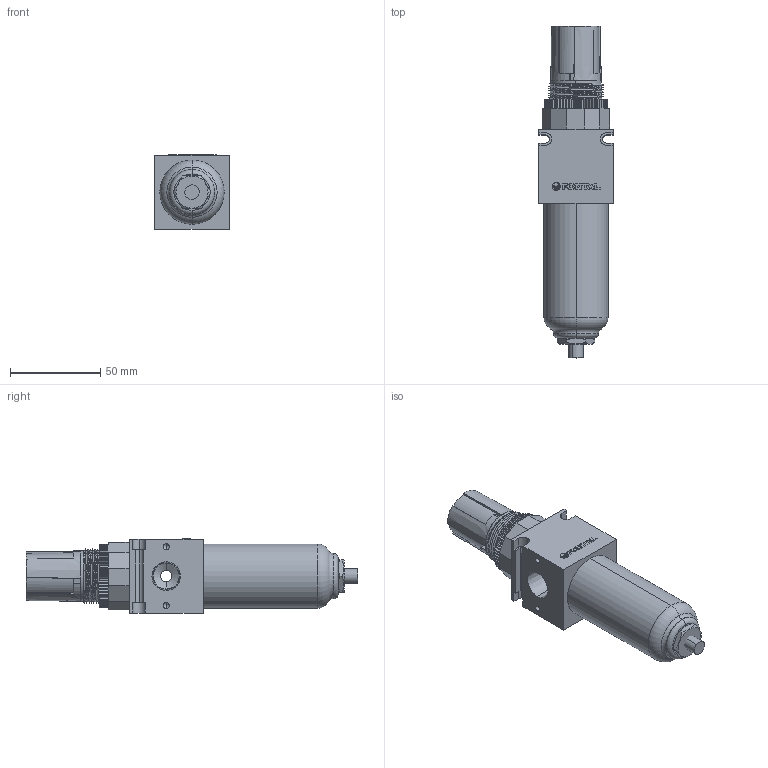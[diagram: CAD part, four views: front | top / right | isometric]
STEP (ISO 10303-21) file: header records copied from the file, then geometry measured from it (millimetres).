
FILE_DESCRIPTION (( 'STEP AP203' ), '1' );
FILE_NAME ('B45#-03#Y##.STEP', '2016-02-03T07:48:05', ( 'Toshiba' ), ( 'Toshiba' ), 'SwSTEP 2.0', 'SolidWorks 2014', '' );
FILE_SCHEMA (( 'CONFIG_CONTROL_DESIGN' ));
Length unit declared in the file: millimetre
Products named in the file (12): F45-2; R364-5; F45-3; F45-03; R364-2; R364-3; F45-MARK; B45#-03#Y##; R364-4; R45-03
Assembly tree (11 placements, depth 3):
  B45#-03#Y##
    (unnamed)
      R364-2
      R364-3
      R364-4
      R364-5
    F45-03
      F45-2
      F45-3
      (unnamed)
      F45-MARK
      R45-03
Bounding box: 41 x 183.5 x 41.12 mm (x, y, z)
Volume: 173224.1 mm3; surface area: 37688.4 mm2
Topology: 15 solids, 15 shells, 474 faces, 1276 edges, 832 vertices
Faces by surface type: plane 284, cylinder 143, cone 27, bspline 14, torus 6
Entity records: 17591 total; most frequent: CARTESIAN_POINT 4446, ORIENTED_EDGE 2536, DIRECTION 2425, EDGE_CURVE 1268, LINE 873, VECTOR 873, VERTEX_POINT 832, AXIS2_PLACEMENT_3D 776
